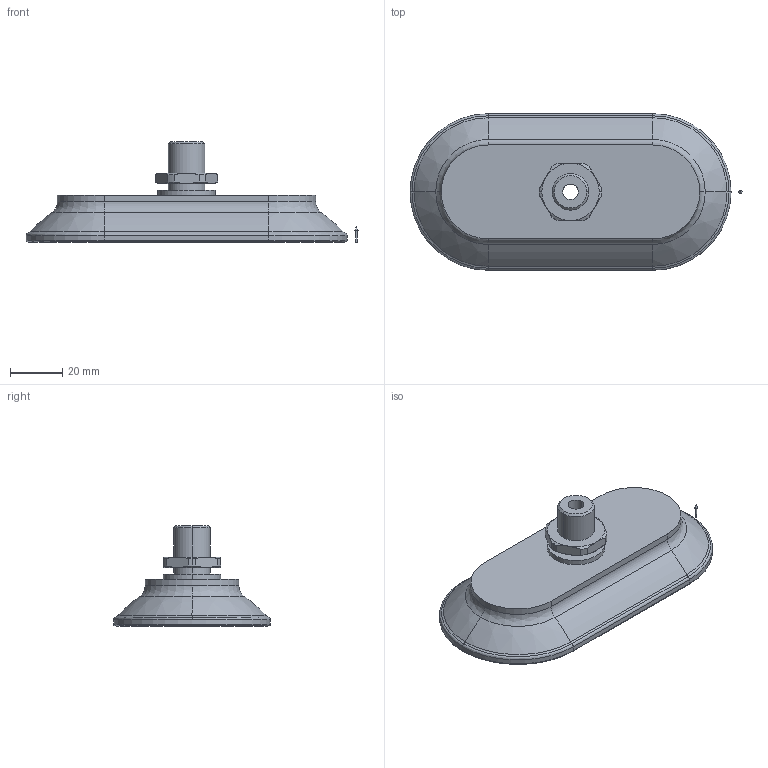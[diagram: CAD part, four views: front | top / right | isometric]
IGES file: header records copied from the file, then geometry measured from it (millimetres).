
Start section: 3D InterOp IGES (v. 2018 1.0.2), Spatial Corp. Copyright (c) 1999-2017.
Global section: file name: schmalz_10_01_05_00350_1s3rbr59toj65fouhepopqlln.igs; native system: Spatial Corp.; preprocessor: 3D InterOp ACIS/IGES; author: TraceParts; organization: TraceParts S.A.; date: 20181031.031550; units: millimetre
Bounding box: 127.2 x 60 x 38.5 mm (x, y, z)
Surface area: 19037.9 mm2 (no closed solid volume)
Topology: 0 solids, 0 shells, 123 faces, 546 edges, 544 vertices
Faces by surface type: revolution 90, extrusion 33
